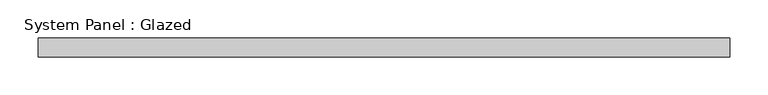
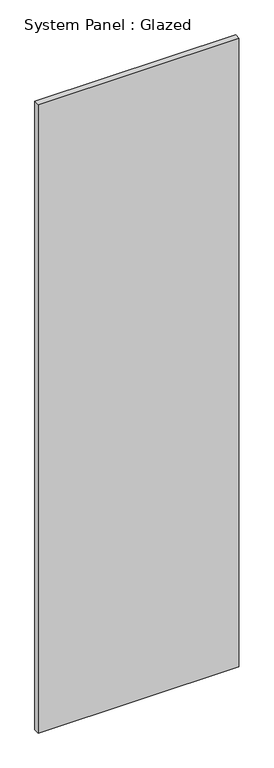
"""IFC4 building model written with IfcOpenShell, lengths in millimetres: plate geometry, System Panel : Glazed."""

from ifc_helpers import new_model, si_unit, origin, origin_with_axes, place, context, project, spatial, polyline, outline, extrude, source, transform, mapped, element, save


def system_panel_glazed_285a106d(model_context):
    return source(origin(), model_context, "Body", "SweptSolid", [
        extrude(outline(polyline([(455.0, -72.5), (-455.0, -72.5), (-455.0, -47.5), (455.0, -47.5), (455.0, -72.5)])), origin_with_axes(), (0.0, 0.0, 1.0), 3012.4038106),
    ])


if __name__ == "__main__":
    model = new_model("IFC4")
    model_context = context("Model", 3, world=origin())
    ifc_project = project(units=[si_unit("LENGTHUNIT", "METRE", prefix="MILLI")], contexts=[model_context])
    site = spatial("IfcSite", under=ifc_project)
    building = spatial("IfcBuilding", under=site)
    placement = place(None, origin())
    system_panel_glazed_shape = system_panel_glazed_285a106d(model_context)
    element("IfcPlate", 1, ObjectType="System Panel : Glazed", at=placement, inside=building, context=model_context, shape_type="MappedRepresentation", body=[
        mapped(system_panel_glazed_shape, transform((0.0, 0.0, 0.0), x_axis=(1.0, 0.0, 0.0), y_axis=(0.0, 1.0, 0.0), z_axis=(0.0, 0.0, 1.0))),
    ])
    save(model, "model.ifc")
